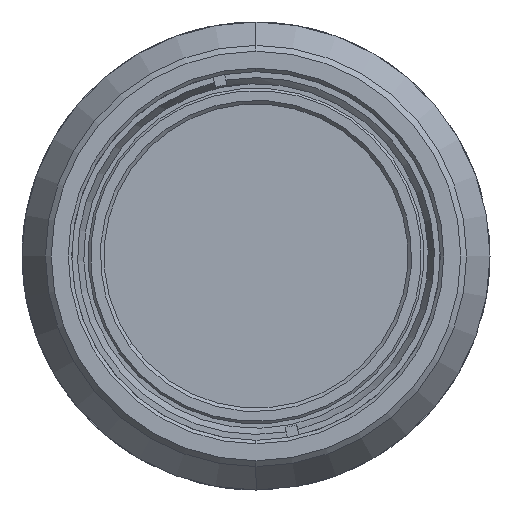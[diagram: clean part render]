
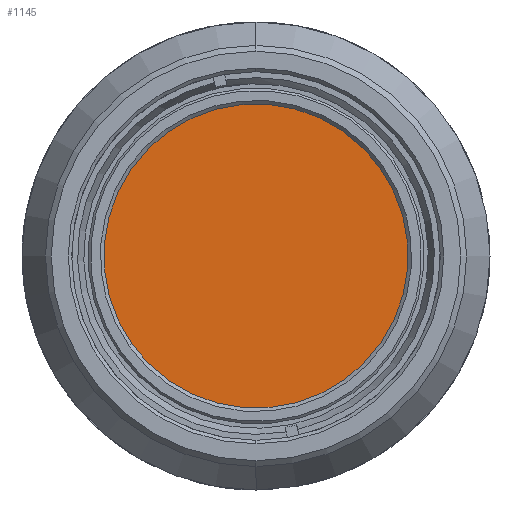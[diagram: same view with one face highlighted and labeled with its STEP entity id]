
A CAD part, left-side view. The second image highlights one B-rep face of the part: STEP entity #1145.
In plain terms, the highlighted planar face has unit normal (-1, 0, 0).
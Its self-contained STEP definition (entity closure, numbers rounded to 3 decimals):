
#258 = DIRECTION ( 'NONE',  ( 0., 0., 1. ) ) ;
#377 = AXIS2_PLACEMENT_3D ( 'NONE', #5570, #2750, #6603 ) ;
#1137 = ORIENTED_EDGE ( 'NONE', *, *, #2581, .F. ) ;
#1140 = AXIS2_PLACEMENT_3D ( 'NONE', #1339, #5643, #6793 ) ;
#1145 = ADVANCED_FACE ( 'NONE', ( #6539 ), #2801, .T. ) ;
#1255 = CARTESIAN_POINT ( 'NONE',  ( 3.747, -10.611, 7.511 ) ) ;
#1339 = CARTESIAN_POINT ( 'NONE',  ( 3.747, 0., 0. ) ) ;
#2196 = ORIENTED_EDGE ( 'NONE', *, *, #2621, .F. ) ;
#2389 = CARTESIAN_POINT ( 'NONE',  ( 3.747, 0., 0. ) ) ;
#2581 = EDGE_CURVE ( 'NONE', #3490, #6954, #3486, .T. ) ;
#2621 = EDGE_CURVE ( 'NONE', #6954, #3490, #3149, .T. ) ;
#2750 = DIRECTION ( 'NONE',  ( -1., 0., 0. ) ) ;
#2801 = PLANE ( 'NONE',  #377 ) ;
#3149 = CIRCLE ( 'NONE', #1140, 13. ) ;
#3348 = CARTESIAN_POINT ( 'NONE',  ( 3.747, 10.611, -7.511 ) ) ;
#3486 = CIRCLE ( 'NONE', #7003, 13. ) ;
#3490 = VERTEX_POINT ( 'NONE', #3348 ) ;
#3989 = DIRECTION ( 'NONE',  ( 1., 0., 0. ) ) ;
#4422 = EDGE_LOOP ( 'NONE', ( #1137, #2196 ) ) ;
#5570 = CARTESIAN_POINT ( 'NONE',  ( 3.747, 0., 0. ) ) ;
#5643 = DIRECTION ( 'NONE',  ( 1., 0., 0. ) ) ;
#6539 = FACE_OUTER_BOUND ( 'NONE', #4422, .T. ) ;
#6603 = DIRECTION ( 'NONE',  ( 0., 0., 1. ) ) ;
#6793 = DIRECTION ( 'NONE',  ( 0., 0., 1. ) ) ;
#6954 = VERTEX_POINT ( 'NONE', #1255 ) ;
#7003 = AXIS2_PLACEMENT_3D ( 'NONE', #2389, #3989, #258 ) ;
